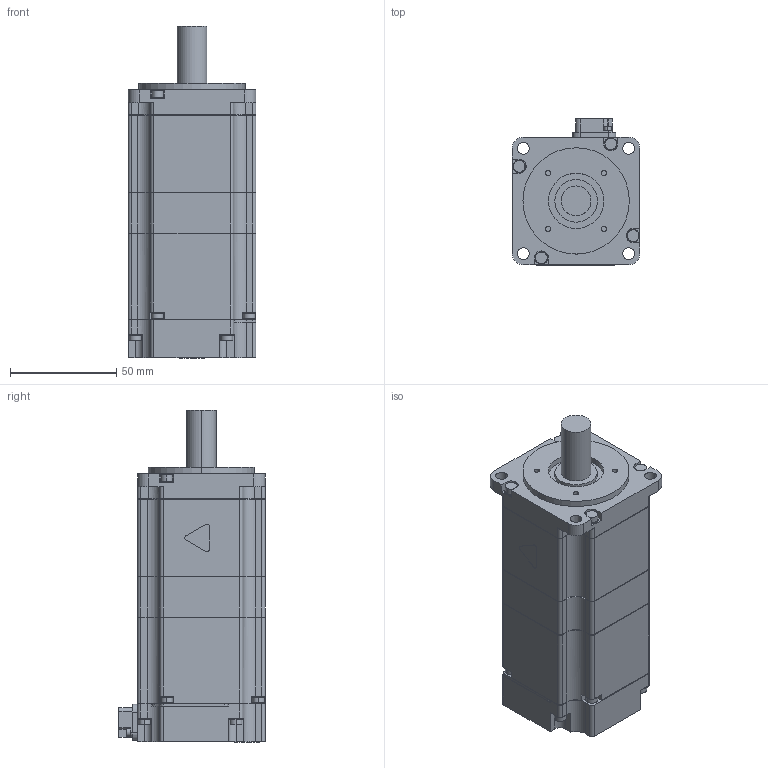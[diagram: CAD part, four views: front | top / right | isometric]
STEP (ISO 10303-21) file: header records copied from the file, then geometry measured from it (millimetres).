
FILE_DESCRIPTION (( 'STEP AP203' ), '1' );
FILE_NAME ('sgm7j_04a_a2c.STEP', '2015-02-02T02:01:25', ( '匠エンジニアリング山之内' ), ( 'TAKUMI-Engniaring' ), 'SwSTEP 2.0', 'SolidWorks 2006303', '' );
FILE_SCHEMA (( 'CONFIG_CONTROL_DESIGN' ));
Length unit declared in the file: millimetre
Products named in the file (1): sgm7j_04a_a2c
Bounding box: 60.1 x 68.8 x 156.1 mm (x, y, z)
Volume: 410973.3 mm3; surface area: 40818.2 mm2
Topology: 1 solids, 1 shells, 509 faces, 1347 edges, 892 vertices
Faces by surface type: plane 275, cylinder 234
Entity records: 15990 total; most frequent: DIRECTION 2867, CARTESIAN_POINT 2749, ORIENTED_EDGE 2694, EDGE_CURVE 1347, AXIS2_PLACEMENT_3D 1010, VERTEX_POINT 892, VECTOR 847, LINE 847
